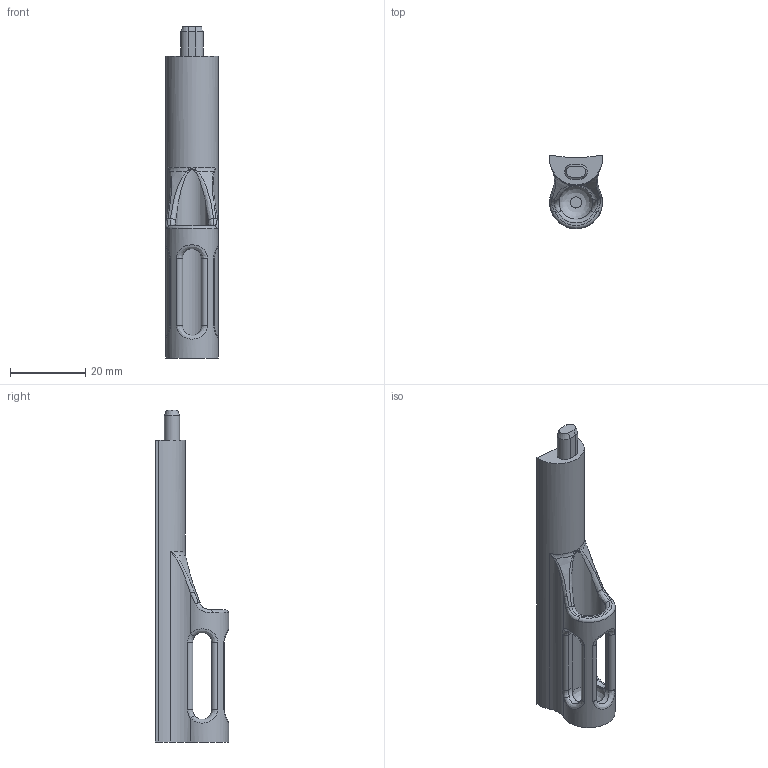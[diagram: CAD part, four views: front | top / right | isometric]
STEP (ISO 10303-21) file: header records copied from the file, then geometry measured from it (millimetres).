
FILE_DESCRIPTION(/* description */ ('','CAx-IF Rec.Pracs.---Representation and Presentation of Product Manufacturing Information (PMI)---4.0---2014-10-13'),/* implementation_level */ '2;1');
FILE_NAME(/* name */ 'Halmhalter_01.step',/* time_stamp */ '2025-01-26T17:26:16+01:00',/* author */ (''),/* organization */ (''),/* preprocessor_version */ 'ST-DEVELOPER v20',/* originating_system */ 'Autodesk Translation Framework v13.20.0.188',/* authorisation */ '');
FILE_SCHEMA (('AP242_MANAGED_MODEL_BASED_3D_ENGINEERING_MIM_LF { 1 0 10303 442 1 1 4 }'));
Length unit declared in the file: millimetre
Products named in the file (1): 01_Halmhalter_v2
Bounding box: 14 x 19.4 x 88 mm (x, y, z)
Volume: 9296.7 mm3; surface area: 4988.7 mm2
Topology: 1 solids, 1 shells, 76 faces, 196 edges, 114 vertices
Faces by surface type: bspline 29, cylinder 20, plane 17, torus 6, cone 4
Full cylindrical faces by diameter (mm): 9 x1
Entity records: 3494 total; most frequent: CARTESIAN_POINT 1812, ORIENTED_EDGE 380, DIRECTION 282, EDGE_CURVE 190, VERTEX_POINT 114, AXIS2_PLACEMENT_3D 111, EDGE_LOOP 80, FACE_OUTER_BOUND 76
